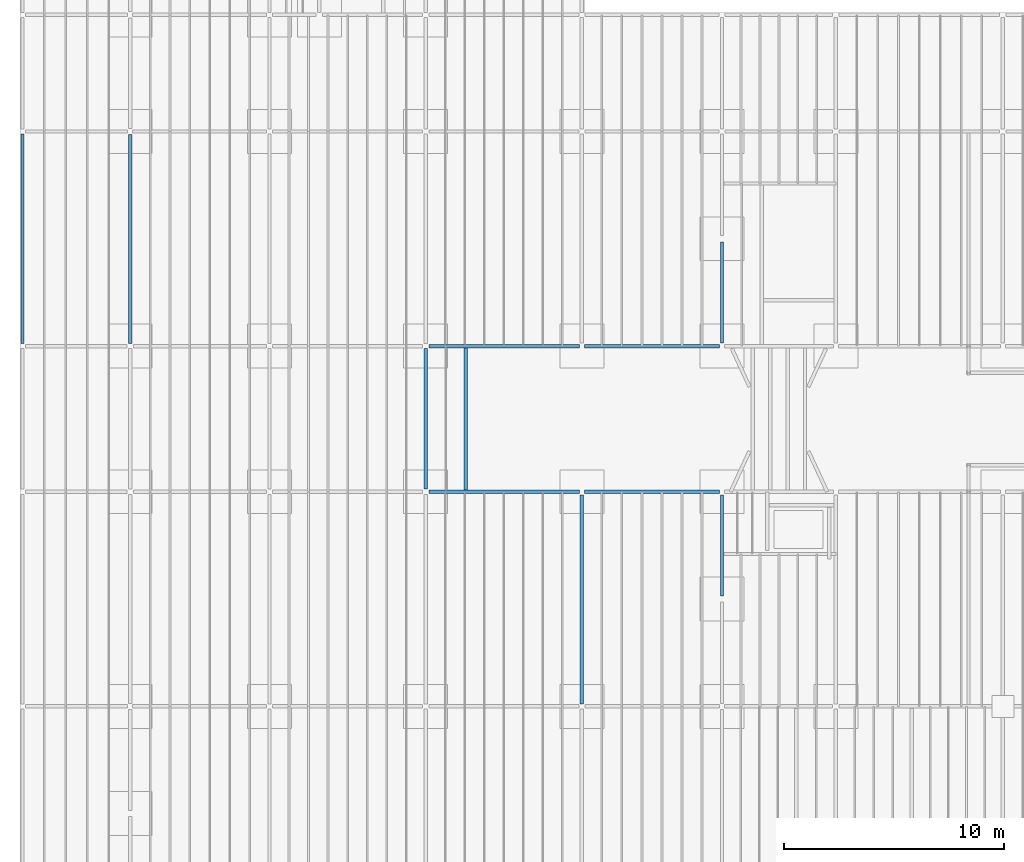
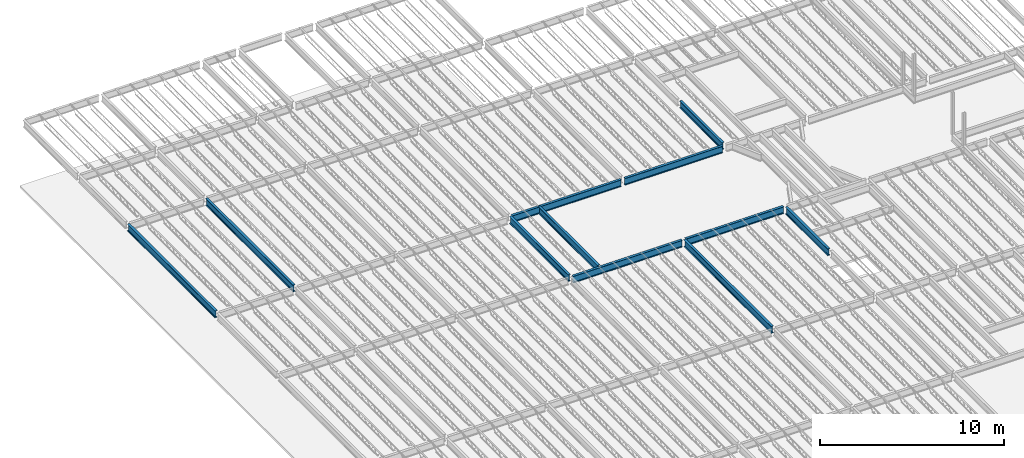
# One storey, part 8 of 75: 11 beams.
"""IFC2X3 building model written with IfcOpenShell, lengths in metres."""

from ifc_helpers import new_model, entity, si_unit, converted_unit, frame, frame_2d, origin, place, context, project, spatial, polyline, circle_curve, parameter, trimmed, segment, composite_curve, outline, extrude, material, element, save


model = new_model("IFC2X3")

# Units and contexts
model_context = context("Model", 3, precision=1e-09, world=origin())
plan_context = context("Plan", 3, precision=1e-09, world=origin())
ifc_project = project(units=[si_unit("LENGTHUNIT", "METRE"), si_unit("AREAUNIT", "SQUARE_METRE"), si_unit("VOLUMEUNIT", "CUBIC_METRE"), converted_unit("PLANEANGLEUNIT", "DEGREE", entity("IfcRatioMeasure", 0.01745329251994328), si_unit("PLANEANGLEUNIT", "RADIAN"), dimensions=[0, 0, 0, 0, 0, 0, 0]), si_unit("TIMEUNIT", "SECOND")], contexts=[model_context, plan_context])

# Site, building, storey
site_placement = place(None, origin())
site = spatial("IfcSite", under=ifc_project, at=site_placement, Name="Default", CompositionType="ELEMENT")
building_placement = place(site_placement, origin())
building = spatial("IfcBuilding", under=site, at=building_placement, CompositionType="ELEMENT")
storey_placement = place(building_placement, origin())
storey = spatial("IfcBuildingStorey", under=building, at=storey_placement, Name="First Floor", CompositionType="ELEMENT", Elevation=-3.531500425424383e-13)

# Beams
ifc_material = material(Name="Metal - Steel - 345 MPa")
beam_1_placement = place(storey_placement, frame((-26.44000000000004, 28.38140165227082, 4.46800000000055), z_axis=(0.0, 0.0, 1.0), x_axis=(-1.0, 0.0, 0.0)))
element("IfcBeam", 1, at=beam_1_placement, inside=storey, material=ifc_material, Name="M_W-Wide Flange:W460X60:W460X60", ObjectType="M_W-Wide Flange:W460X60", context=model_context, shape_type="SweptSolid", body=[
    extrude(outline(composite_curve([segment(polyline([(0.2141999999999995, -0.0764999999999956), (0.2275000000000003, -0.0764999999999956)]), True, "CONTINUOUS"), segment(polyline([(0.2275000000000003, -0.0764999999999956), (0.2275000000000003, 0.07650000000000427)]), True, "CONTINUOUS"), segment(polyline([(0.2275000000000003, 0.07650000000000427), (0.2141999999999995, 0.07650000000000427)]), True, "CONTINUOUS"), segment(polyline([(0.2141999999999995, 0.07650000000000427), (0.2141999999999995, 0.02170000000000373)]), True, "CONTINUOUS"), segment(trimmed(circle_curve(frame_2d((0.1964999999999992, 0.02170000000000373), x_axis=(1.0, 0.0)), 0.0177), [parameter(269.9999999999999)], [parameter(359.9999999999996)], True, "PARAMETER"), False, "CONTINUOUS"), segment(polyline([(0.1964999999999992, 0.004000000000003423), (-0.1965000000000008, 0.004000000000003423)]), True, "CONTINUOUS"), segment(trimmed(circle_curve(frame_2d((-0.1965000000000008, 0.02170000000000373), x_axis=(0.0, -1.0)), 0.0177), [parameter(269.9999999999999)], [parameter(359.9999999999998)], True, "PARAMETER"), False, "CONTINUOUS"), segment(polyline([(-0.2142000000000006, 0.02170000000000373), (-0.2142000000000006, 0.07650000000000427)]), True, "CONTINUOUS"), segment(polyline([(-0.2142000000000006, 0.07650000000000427), (-0.2274999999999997, 0.07650000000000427)]), True, "CONTINUOUS"), segment(polyline([(-0.2274999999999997, 0.07650000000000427), (-0.2274999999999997, -0.0764999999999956)]), True, "CONTINUOUS"), segment(polyline([(-0.2274999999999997, -0.0764999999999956), (-0.2142000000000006, -0.0764999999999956)]), True, "CONTINUOUS"), segment(polyline([(-0.2142000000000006, -0.0764999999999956), (-0.2142000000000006, -0.02169999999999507)]), True, "CONTINUOUS"), segment(trimmed(circle_curve(frame_2d((-0.1965000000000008, -0.02169999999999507), x_axis=(-1.0, 0.0)), 0.0177), [parameter(269.9999999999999)], [parameter(359.9999999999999)], True, "PARAMETER"), False, "CONTINUOUS"), segment(polyline([(-0.1965000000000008, -0.003999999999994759), (0.1964999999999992, -0.003999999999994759)]), True, "CONTINUOUS"), segment(trimmed(circle_curve(frame_2d((0.1964999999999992, -0.02169999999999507), x_axis=(0.0, 1.0)), 0.0177), [parameter(269.9999999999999)], [parameter(5.088887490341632e-14)], True, "PARAMETER"), False, "CONTINUOUS"), segment(polyline([(0.2141999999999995, -0.02169999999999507), (0.2141999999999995, -0.0764999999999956)]), True, "CONTINUOUS")], self_intersect=False)), frame((0.0, 9.656701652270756, -0.2275000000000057), z_axis=(0.0, -1.0, 0.0), x_axis=(0.0, 0.0, -1.0)), (0.0, 0.0, 1.0), 9.514099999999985),
])
beam_2_placement = place(storey_placement, frame((-20.05785378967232, 35.00999999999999, 4.404500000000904), z_axis=(0.0, 0.0, 1.0), x_axis=(0.0, 1.0, 0.0)))
element("IfcBeam", 2, at=beam_2_placement, inside=storey, material=ifc_material, Name="M_W-Wide Flange:W460X60:W460X60", ObjectType="M_W-Wide Flange:W460X60", context=model_context, shape_type="SweptSolid", body=[
    extrude(outline(composite_curve([segment(polyline([(0.2141999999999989, -0.07649999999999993), (0.2274999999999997, -0.07649999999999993)]), True, "CONTINUOUS"), segment(polyline([(0.2274999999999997, -0.07649999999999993), (0.2274999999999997, 0.07649999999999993)]), True, "CONTINUOUS"), segment(polyline([(0.2274999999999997, 0.07649999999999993), (0.2141999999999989, 0.07649999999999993)]), True, "CONTINUOUS"), segment(polyline([(0.2141999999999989, 0.07649999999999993), (0.2141999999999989, 0.0216999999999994)]), True, "CONTINUOUS"), segment(trimmed(circle_curve(frame_2d((0.1964999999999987, 0.0216999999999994), x_axis=(1.0, 0.0)), 0.0177), [parameter(269.9999999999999)], [parameter(359.9999999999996)], True, "PARAMETER"), False, "CONTINUOUS"), segment(polyline([(0.1964999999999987, 0.003999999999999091), (-0.1965000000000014, 0.003999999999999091)]), True, "CONTINUOUS"), segment(trimmed(circle_curve(frame_2d((-0.1965000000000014, 0.0216999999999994), x_axis=(0.0, -1.0)), 0.0177), [parameter(269.9999999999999)], [parameter(359.9999999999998)], True, "PARAMETER"), False, "CONTINUOUS"), segment(polyline([(-0.2142000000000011, 0.0216999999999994), (-0.2142000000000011, 0.07649999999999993)]), True, "CONTINUOUS"), segment(polyline([(-0.2142000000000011, 0.07649999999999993), (-0.2275000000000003, 0.07649999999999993)]), True, "CONTINUOUS"), segment(polyline([(-0.2275000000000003, 0.07649999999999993), (-0.2275000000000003, -0.07649999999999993)]), True, "CONTINUOUS"), segment(polyline([(-0.2275000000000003, -0.07649999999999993), (-0.2142000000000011, -0.07649999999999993)]), True, "CONTINUOUS"), segment(polyline([(-0.2142000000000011, -0.07649999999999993), (-0.2142000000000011, -0.0216999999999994)]), True, "CONTINUOUS"), segment(trimmed(circle_curve(frame_2d((-0.1965000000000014, -0.0216999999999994), x_axis=(-1.0, 0.0)), 0.0177), [parameter(269.9999999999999)], [parameter(359.9999999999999)], True, "PARAMETER"), False, "CONTINUOUS"), segment(polyline([(-0.1965000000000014, -0.003999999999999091), (0.1964999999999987, -0.003999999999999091)]), True, "CONTINUOUS"), segment(trimmed(circle_curve(frame_2d((0.1964999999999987, -0.0216999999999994), x_axis=(0.0, 1.0)), 0.0177), [parameter(269.9999999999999)], [parameter(5.088887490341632e-14)], True, "PARAMETER"), False, "CONTINUOUS"), segment(polyline([(0.2141999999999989, -0.0216999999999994), (0.2141999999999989, -0.07649999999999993)]), True, "CONTINUOUS")], self_intersect=False)), frame((0.0, 6.267446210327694, -0.2275000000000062), z_axis=(0.0, -1.0, 0.0), x_axis=(0.0, 0.0, -1.0)), (0.0, 0.0, 1.0), 6.150600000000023),
])
beam_3_placement = place(storey_placement, frame((-33.55000000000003, 35.01206530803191, 4.468000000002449), z_axis=(0.0, 0.0, 1.0), x_axis=(-1.0, 0.0, 0.0)))
element("IfcBeam", 3, at=beam_3_placement, inside=storey, material=ifc_material, Name="M_W-Wide Flange:W460X60:W460X60", ObjectType="M_W-Wide Flange:W460X60", context=model_context, shape_type="SweptSolid", body=[
    extrude(outline(composite_curve([segment(polyline([(0.2142, -0.07650000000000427), (0.2275000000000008, -0.07650000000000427)]), True, "CONTINUOUS"), segment(polyline([(0.2275000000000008, -0.07650000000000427), (0.2275000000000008, 0.0764999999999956)]), True, "CONTINUOUS"), segment(polyline([(0.2275000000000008, 0.0764999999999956), (0.2142, 0.0764999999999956)]), True, "CONTINUOUS"), segment(polyline([(0.2142, 0.0764999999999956), (0.2142, 0.02169999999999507)]), True, "CONTINUOUS"), segment(trimmed(circle_curve(frame_2d((0.1964999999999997, 0.02169999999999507), x_axis=(1.0, 0.0)), 0.0177), [parameter(269.9999999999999)], [parameter(359.9999999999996)], True, "PARAMETER"), False, "CONTINUOUS"), segment(polyline([(0.1964999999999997, 0.00399999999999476), (-0.1965000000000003, 0.00399999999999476)]), True, "CONTINUOUS"), segment(trimmed(circle_curve(frame_2d((-0.1965000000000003, 0.02169999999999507), x_axis=(0.0, -1.0)), 0.0177), [parameter(269.9999999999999)], [parameter(359.9999999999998)], True, "PARAMETER"), False, "CONTINUOUS"), segment(polyline([(-0.2142000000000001, 0.02169999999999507), (-0.2142000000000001, 0.0764999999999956)]), True, "CONTINUOUS"), segment(polyline([(-0.2142000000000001, 0.0764999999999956), (-0.2274999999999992, 0.0764999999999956)]), True, "CONTINUOUS"), segment(polyline([(-0.2274999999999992, 0.0764999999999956), (-0.2274999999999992, -0.07650000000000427)]), True, "CONTINUOUS"), segment(polyline([(-0.2274999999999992, -0.07650000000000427), (-0.2142000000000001, -0.07650000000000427)]), True, "CONTINUOUS"), segment(polyline([(-0.2142000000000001, -0.07650000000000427), (-0.2142000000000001, -0.02170000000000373)]), True, "CONTINUOUS"), segment(trimmed(circle_curve(frame_2d((-0.1965000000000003, -0.02170000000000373), x_axis=(-1.0, 0.0)), 0.0177), [parameter(269.9999999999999)], [parameter(359.9999999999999)], True, "PARAMETER"), False, "CONTINUOUS"), segment(polyline([(-0.1965000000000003, -0.004000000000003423), (0.1964999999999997, -0.004000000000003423)]), True, "CONTINUOUS"), segment(trimmed(circle_curve(frame_2d((0.1964999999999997, -0.02170000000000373), x_axis=(0.0, 1.0)), 0.0177), [parameter(269.9999999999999)], [parameter(5.088887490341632e-14)], True, "PARAMETER"), False, "CONTINUOUS"), segment(polyline([(0.2142, -0.02170000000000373), (0.2142, -0.07650000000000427)]), True, "CONTINUOUS")], self_intersect=False)), frame((0.0, 6.517365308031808, -0.2275000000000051), z_axis=(0.0, -1.0, 0.0), x_axis=(0.0, 0.0, -1.0)), (0.0, 0.0, 1.0), 6.400599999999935),
])
beam_4_placement = place(storey_placement, frame((-31.72122399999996, 28.53039529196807, 4.468000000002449)))
element("IfcBeam", 4, at=beam_4_placement, inside=storey, material=ifc_material, Name="M_W-Wide Flange:W460X60:W460X60", ObjectType="M_W-Wide Flange:W460X60", context=model_context, shape_type="SweptSolid", body=[
    extrude(outline(composite_curve([segment(polyline([(-0.07649999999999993, -0.2142), (-0.07649999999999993, -0.2275000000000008)]), True, "CONTINUOUS"), segment(polyline([(-0.07649999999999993, -0.2275000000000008), (0.07649999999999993, -0.2275000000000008)]), True, "CONTINUOUS"), segment(polyline([(0.07649999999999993, -0.2275000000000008), (0.07649999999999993, -0.2142)]), True, "CONTINUOUS"), segment(polyline([(0.07649999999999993, -0.2142), (0.0216999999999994, -0.2142)]), True, "CONTINUOUS"), segment(trimmed(circle_curve(frame_2d((0.0216999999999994, -0.1964999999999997), x_axis=(1.0, 0.0)), 0.0177), [parameter(180.0)], [parameter(269.9999999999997)], True, "PARAMETER"), False, "CONTINUOUS"), segment(polyline([(0.003999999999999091, -0.1964999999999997), (0.003999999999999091, 0.1965000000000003)]), True, "CONTINUOUS"), segment(trimmed(circle_curve(frame_2d((0.0216999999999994, 0.1965000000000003), x_axis=(1.0, 0.0)), 0.0177), [parameter(90.00000000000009)], [parameter(179.9999999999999)], True, "PARAMETER"), False, "CONTINUOUS"), segment(polyline([(0.0216999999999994, 0.2142000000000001), (0.07649999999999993, 0.2142000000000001)]), True, "CONTINUOUS"), segment(polyline([(0.07649999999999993, 0.2142000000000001), (0.07649999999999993, 0.2274999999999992)]), True, "CONTINUOUS"), segment(polyline([(0.07649999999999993, 0.2274999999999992), (-0.07649999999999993, 0.2274999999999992)]), True, "CONTINUOUS"), segment(polyline([(-0.07649999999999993, 0.2274999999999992), (-0.07649999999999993, 0.2142000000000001)]), True, "CONTINUOUS"), segment(polyline([(-0.07649999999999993, 0.2142000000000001), (-0.0216999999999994, 0.2142000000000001)]), True, "CONTINUOUS"), segment(trimmed(circle_curve(frame_2d((-0.0216999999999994, 0.1965000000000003), x_axis=(1.0, 0.0)), 0.0177), [parameter(359.9999999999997)], [parameter(89.99999999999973)], True, "PARAMETER"), False, "CONTINUOUS"), segment(polyline([(-0.003999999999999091, 0.1965000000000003), (-0.003999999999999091, -0.1964999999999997)]), True, "CONTINUOUS"), segment(trimmed(circle_curve(frame_2d((-0.0216999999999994, -0.1964999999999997), x_axis=(1.0, 0.0)), 0.0177), [parameter(269.9999999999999)], [parameter(0.0)], True, "PARAMETER"), False, "CONTINUOUS"), segment(polyline([(-0.0216999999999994, -0.2142), (-0.07649999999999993, -0.2142)]), True, "CONTINUOUS")], self_intersect=False)), frame((0.0, -0.06119529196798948, -0.2275000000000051), z_axis=(0.0, -1.0, 0.0), x_axis=(1.0, 0.0, 0.0)), (0.0, 0.0, -1.0), 6.451599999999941),
])
beam_5_placement = place(storey_placement, frame((-26.43807408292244, 28.38000000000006, 4.404500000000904), z_axis=(0.0, 0.0, 1.0), x_axis=(0.0, 1.0, 0.0)))
element("IfcBeam", 5, at=beam_5_placement, inside=storey, material=ifc_material, Name="M_W-Wide Flange:W460X60:W460X60", ObjectType="M_W-Wide Flange:W460X60", context=model_context, shape_type="SweptSolid", body=[
    extrude(outline(composite_curve([segment(polyline([(0.2141999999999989, -0.07649999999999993), (0.2274999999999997, -0.07649999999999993)]), True, "CONTINUOUS"), segment(polyline([(0.2274999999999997, -0.07649999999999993), (0.2274999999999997, 0.07649999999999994)]), True, "CONTINUOUS"), segment(polyline([(0.2274999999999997, 0.07649999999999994), (0.2141999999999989, 0.07649999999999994)]), True, "CONTINUOUS"), segment(polyline([(0.2141999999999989, 0.07649999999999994), (0.2141999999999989, 0.0216999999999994)]), True, "CONTINUOUS"), segment(trimmed(circle_curve(frame_2d((0.1964999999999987, 0.0216999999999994), x_axis=(1.0, 0.0)), 0.0177), [parameter(269.9999999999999)], [parameter(359.9999999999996)], True, "PARAMETER"), False, "CONTINUOUS"), segment(polyline([(0.1964999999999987, 0.00399999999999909), (-0.1965000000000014, 0.00399999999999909)]), True, "CONTINUOUS"), segment(trimmed(circle_curve(frame_2d((-0.1965000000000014, 0.0216999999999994), x_axis=(0.0, -1.0)), 0.0177), [parameter(269.9999999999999)], [parameter(359.9999999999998)], True, "PARAMETER"), False, "CONTINUOUS"), segment(polyline([(-0.2142000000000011, 0.0216999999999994), (-0.2142000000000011, 0.07649999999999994)]), True, "CONTINUOUS"), segment(polyline([(-0.2142000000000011, 0.07649999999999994), (-0.2275000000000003, 0.07649999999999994)]), True, "CONTINUOUS"), segment(polyline([(-0.2275000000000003, 0.07649999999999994), (-0.2275000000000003, -0.07649999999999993)]), True, "CONTINUOUS"), segment(polyline([(-0.2275000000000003, -0.07649999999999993), (-0.2142000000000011, -0.07649999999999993)]), True, "CONTINUOUS"), segment(polyline([(-0.2142000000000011, -0.07649999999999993), (-0.2142000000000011, -0.0216999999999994)]), True, "CONTINUOUS"), segment(trimmed(circle_curve(frame_2d((-0.1965000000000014, -0.0216999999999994), x_axis=(-1.0, 0.0)), 0.0177), [parameter(269.9999999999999)], [parameter(359.9999999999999)], True, "PARAMETER"), False, "CONTINUOUS"), segment(polyline([(-0.1965000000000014, -0.003999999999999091), (0.1964999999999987, -0.003999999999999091)]), True, "CONTINUOUS"), segment(trimmed(circle_curve(frame_2d((0.1964999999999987, -0.0216999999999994), x_axis=(0.0, 1.0)), 0.0177), [parameter(269.9999999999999)], [parameter(5.088887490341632e-14)], True, "PARAMETER"), False, "CONTINUOUS"), segment(polyline([(0.2141999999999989, -0.0216999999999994), (0.2141999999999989, -0.07649999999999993)]), True, "CONTINUOUS")], self_intersect=False)), frame((0.0, 6.970725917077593, -0.2275000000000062), z_axis=(0.0, -1.0, 0.0), x_axis=(0.0, 0.0, -1.0)), (0.0, 0.0, 1.0), 6.854099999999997),
])
beam_6_placement = place(storey_placement, frame((-26.43807408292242, 35.01000000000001, 4.404500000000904), z_axis=(0.0, 0.0, 1.0), x_axis=(0.0, 1.0, 0.0)))
element("IfcBeam", 6, at=beam_6_placement, inside=storey, material=ifc_material, Name="M_W-Wide Flange:W460X60:W460X60", ObjectType="M_W-Wide Flange:W460X60", context=model_context, shape_type="SweptSolid", body=[
    extrude(outline(composite_curve([segment(polyline([(0.2141999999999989, -0.07650000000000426), (0.2274999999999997, -0.07650000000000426)]), True, "CONTINUOUS"), segment(polyline([(0.2274999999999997, -0.07650000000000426), (0.2274999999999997, 0.07649999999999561)]), True, "CONTINUOUS"), segment(polyline([(0.2274999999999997, 0.07649999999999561), (0.2141999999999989, 0.07649999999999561)]), True, "CONTINUOUS"), segment(polyline([(0.2141999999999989, 0.07649999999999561), (0.2141999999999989, 0.02169999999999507)]), True, "CONTINUOUS"), segment(trimmed(circle_curve(frame_2d((0.1964999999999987, 0.02169999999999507), x_axis=(1.0, 0.0)), 0.0177), [parameter(269.9999999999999)], [parameter(359.9999999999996)], True, "PARAMETER"), False, "CONTINUOUS"), segment(polyline([(0.1964999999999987, 0.003999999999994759), (-0.1965000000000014, 0.003999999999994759)]), True, "CONTINUOUS"), segment(trimmed(circle_curve(frame_2d((-0.1965000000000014, 0.02169999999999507), x_axis=(0.0, -1.0)), 0.0177), [parameter(269.9999999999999)], [parameter(359.9999999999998)], True, "PARAMETER"), False, "CONTINUOUS"), segment(polyline([(-0.2142000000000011, 0.02169999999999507), (-0.2142000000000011, 0.07649999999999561)]), True, "CONTINUOUS"), segment(polyline([(-0.2142000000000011, 0.07649999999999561), (-0.2275000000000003, 0.07649999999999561)]), True, "CONTINUOUS"), segment(polyline([(-0.2275000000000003, 0.07649999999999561), (-0.2275000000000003, -0.07650000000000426)]), True, "CONTINUOUS"), segment(polyline([(-0.2275000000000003, -0.07650000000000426), (-0.2142000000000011, -0.07650000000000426)]), True, "CONTINUOUS"), segment(polyline([(-0.2142000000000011, -0.07650000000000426), (-0.2142000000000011, -0.02170000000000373)]), True, "CONTINUOUS"), segment(trimmed(circle_curve(frame_2d((-0.1965000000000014, -0.02170000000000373), x_axis=(-1.0, 0.0)), 0.0177), [parameter(269.9999999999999)], [parameter(359.9999999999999)], True, "PARAMETER"), False, "CONTINUOUS"), segment(polyline([(-0.1965000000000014, -0.004000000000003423), (0.1964999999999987, -0.004000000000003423)]), True, "CONTINUOUS"), segment(trimmed(circle_curve(frame_2d((0.1964999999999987, -0.02170000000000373), x_axis=(0.0, 1.0)), 0.0177), [parameter(269.9999999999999)], [parameter(5.088887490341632e-14)], True, "PARAMETER"), False, "CONTINUOUS"), segment(polyline([(0.2141999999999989, -0.02170000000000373), (0.2141999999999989, -0.07650000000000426)]), True, "CONTINUOUS")], self_intersect=False)), frame((0.0, 6.970725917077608, -0.2275000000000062), z_axis=(0.0, -1.0, 0.0), x_axis=(0.0, 0.0, -1.0)), (0.0, 0.0, 1.0), 6.854099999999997),
])
beam_7_placement = place(storey_placement, frame((-51.89999999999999, 44.78140165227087, 4.46800000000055), z_axis=(0.0, 0.0, 1.0), x_axis=(-1.0, 0.0, 0.0)))
element("IfcBeam", 7, at=beam_7_placement, inside=storey, material=ifc_material, Name="M_W-Wide Flange:W460X60:W460X60", ObjectType="M_W-Wide Flange:W460X60", context=model_context, shape_type="SweptSolid", body=[
    extrude(outline(composite_curve([segment(polyline([(0.2141999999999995, -0.07649999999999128), (0.2275000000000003, -0.07649999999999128)]), True, "CONTINUOUS"), segment(polyline([(0.2275000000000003, -0.07649999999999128), (0.2275000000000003, 0.07650000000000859)]), True, "CONTINUOUS"), segment(polyline([(0.2275000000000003, 0.07650000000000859), (0.2141999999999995, 0.07650000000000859)]), True, "CONTINUOUS"), segment(polyline([(0.2141999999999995, 0.07650000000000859), (0.2141999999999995, 0.02170000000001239)]), True, "CONTINUOUS"), segment(trimmed(circle_curve(frame_2d((0.1964999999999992, 0.02170000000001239), x_axis=(1.0, 0.0)), 0.0177), [parameter(269.9999999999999)], [parameter(359.9999999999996)], True, "PARAMETER"), False, "CONTINUOUS"), segment(polyline([(0.1964999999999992, 0.004000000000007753), (-0.1965000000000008, 0.004000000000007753)]), True, "CONTINUOUS"), segment(trimmed(circle_curve(frame_2d((-0.1965000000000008, 0.02170000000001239), x_axis=(0.0, -1.0)), 0.0177), [parameter(269.9999999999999)], [parameter(359.9999999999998)], True, "PARAMETER"), False, "CONTINUOUS"), segment(polyline([(-0.2142000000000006, 0.02170000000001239), (-0.2142000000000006, 0.07650000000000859)]), True, "CONTINUOUS"), segment(polyline([(-0.2142000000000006, 0.07650000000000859), (-0.2274999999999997, 0.07650000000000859)]), True, "CONTINUOUS"), segment(polyline([(-0.2274999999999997, 0.07650000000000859), (-0.2274999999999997, -0.07649999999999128)]), True, "CONTINUOUS"), segment(polyline([(-0.2274999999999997, -0.07649999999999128), (-0.2142000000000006, -0.07649999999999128)]), True, "CONTINUOUS"), segment(polyline([(-0.2142000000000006, -0.07649999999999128), (-0.2142000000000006, -0.02169999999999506)]), True, "CONTINUOUS"), segment(trimmed(circle_curve(frame_2d((-0.1965000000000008, -0.0216999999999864), x_axis=(-1.0, 0.0)), 0.0177), [parameter(269.9999999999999)], [parameter(359.9999999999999)], True, "PARAMETER"), False, "CONTINUOUS"), segment(polyline([(-0.1965000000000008, -0.003999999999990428), (0.1964999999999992, -0.003999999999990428)]), True, "CONTINUOUS"), segment(trimmed(circle_curve(frame_2d((0.1964999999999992, -0.0216999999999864), x_axis=(0.0, 1.0)), 0.0177), [parameter(269.9999999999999)], [parameter(5.088887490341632e-14)], True, "PARAMETER"), False, "CONTINUOUS"), segment(polyline([(0.2141999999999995, -0.02169999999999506), (0.2141999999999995, -0.07649999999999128)]), True, "CONTINUOUS")], self_intersect=False)), frame((0.0, 9.65670165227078, -0.2275000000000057), z_axis=(0.0, -1.0, 0.0), x_axis=(0.0, 0.0, -1.0)), (0.0, 0.0, 1.0), 9.540600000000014),
])
beam_8_placement = place(storey_placement, frame((-47.0, 35.0085983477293, 4.46800000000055)))
element("IfcBeam", 8, at=beam_8_placement, inside=storey, material=ifc_material, Name="M_W-Wide Flange:W460X60:W460X60", ObjectType="M_W-Wide Flange:W460X60", context=model_context, shape_type="SweptSolid", body=[
    extrude(outline(composite_curve([segment(polyline([(-0.07649999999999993, -0.2142), (-0.07649999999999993, -0.2275000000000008)]), True, "CONTINUOUS"), segment(polyline([(-0.07649999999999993, -0.2275000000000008), (0.07649999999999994, -0.2275000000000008)]), True, "CONTINUOUS"), segment(polyline([(0.07649999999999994, -0.2275000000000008), (0.07649999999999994, -0.2142)]), True, "CONTINUOUS"), segment(polyline([(0.07649999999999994, -0.2142), (0.02170000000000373, -0.2142)]), True, "CONTINUOUS"), segment(trimmed(circle_curve(frame_2d((0.02170000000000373, -0.1964999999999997), x_axis=(0.0, -1.0)), 0.0177), [parameter(269.9999999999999)], [parameter(359.9999999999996)], True, "PARAMETER"), False, "CONTINUOUS"), segment(polyline([(0.003999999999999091, -0.1964999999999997), (0.003999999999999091, 0.1965000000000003)]), True, "CONTINUOUS"), segment(trimmed(circle_curve(frame_2d((0.02170000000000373, 0.1965000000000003), x_axis=(-1.0, 0.0)), 0.0177), [parameter(269.9999999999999)], [parameter(359.9999999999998)], True, "PARAMETER"), False, "CONTINUOUS"), segment(polyline([(0.02170000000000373, 0.2142000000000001), (0.07649999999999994, 0.2142000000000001)]), True, "CONTINUOUS"), segment(polyline([(0.07649999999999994, 0.2142000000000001), (0.07649999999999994, 0.2274999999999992)]), True, "CONTINUOUS"), segment(polyline([(0.07649999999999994, 0.2274999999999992), (-0.07649999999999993, 0.2274999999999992)]), True, "CONTINUOUS"), segment(polyline([(-0.07649999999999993, 0.2274999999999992), (-0.07649999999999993, 0.2142000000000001)]), True, "CONTINUOUS"), segment(polyline([(-0.07649999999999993, 0.2142000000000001), (-0.02170000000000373, 0.2142000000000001)]), True, "CONTINUOUS"), segment(trimmed(circle_curve(frame_2d((-0.02169999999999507, 0.1965000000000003), x_axis=(0.0, 1.0)), 0.0177), [parameter(269.9999999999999)], [parameter(359.9999999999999)], True, "PARAMETER"), False, "CONTINUOUS"), segment(polyline([(-0.00399999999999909, 0.1965000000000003), (-0.00399999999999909, -0.1964999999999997)]), True, "CONTINUOUS"), segment(trimmed(circle_curve(frame_2d((-0.02169999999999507, -0.1964999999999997), x_axis=(1.0, 0.0)), 0.0177), [parameter(269.9999999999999)], [parameter(5.088887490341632e-14)], True, "PARAMETER"), False, "CONTINUOUS"), segment(polyline([(-0.02170000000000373, -0.2142), (-0.07649999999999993, -0.2142)]), True, "CONTINUOUS")], self_intersect=False)), frame((0.0, 0.1161016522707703, -0.2275000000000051), z_axis=(0.0, -1.0, 0.0), x_axis=(1.0, 0.0, 0.0)), (0.0, 0.0, -1.0), 9.514099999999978),
])
beam_9_placement = place(storey_placement, frame((-20.05999999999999, 39.89818168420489, 4.46800000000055), z_axis=(0.0, 0.0, 1.0), x_axis=(-1.0, 0.0, 0.0)))
element("IfcBeam", 9, at=beam_9_placement, inside=storey, material=ifc_material, Name="M_W-Wide Flange:W460X60:W460X60", ObjectType="M_W-Wide Flange:W460X60", context=model_context, shape_type="SweptSolid", body=[
    extrude(outline(composite_curve([segment(polyline([(0.2141999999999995, -0.07649999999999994), (0.2275000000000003, -0.07649999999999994)]), True, "CONTINUOUS"), segment(polyline([(0.2275000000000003, -0.07649999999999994), (0.2275000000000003, 0.07649999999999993)]), True, "CONTINUOUS"), segment(polyline([(0.2275000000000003, 0.07649999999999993), (0.2141999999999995, 0.07649999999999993)]), True, "CONTINUOUS"), segment(polyline([(0.2141999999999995, 0.07649999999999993), (0.2141999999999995, 0.0216999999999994)]), True, "CONTINUOUS"), segment(trimmed(circle_curve(frame_2d((0.1964999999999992, 0.0216999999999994), x_axis=(1.0, 0.0)), 0.0177), [parameter(269.9999999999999)], [parameter(359.9999999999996)], True, "PARAMETER"), False, "CONTINUOUS"), segment(polyline([(0.1964999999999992, 0.003999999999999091), (-0.1965000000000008, 0.003999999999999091)]), True, "CONTINUOUS"), segment(trimmed(circle_curve(frame_2d((-0.1965000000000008, 0.0216999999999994), x_axis=(0.0, -1.0)), 0.0177), [parameter(269.9999999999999)], [parameter(359.9999999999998)], True, "PARAMETER"), False, "CONTINUOUS"), segment(polyline([(-0.2142000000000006, 0.0216999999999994), (-0.2142000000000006, 0.07649999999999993)]), True, "CONTINUOUS"), segment(polyline([(-0.2142000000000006, 0.07649999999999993), (-0.2274999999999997, 0.07649999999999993)]), True, "CONTINUOUS"), segment(polyline([(-0.2274999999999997, 0.07649999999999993), (-0.2274999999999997, -0.07649999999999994)]), True, "CONTINUOUS"), segment(polyline([(-0.2274999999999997, -0.07649999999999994), (-0.2142000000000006, -0.07649999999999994)]), True, "CONTINUOUS"), segment(polyline([(-0.2142000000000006, -0.07649999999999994), (-0.2142000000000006, -0.0216999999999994)]), True, "CONTINUOUS"), segment(trimmed(circle_curve(frame_2d((-0.1965000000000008, -0.0216999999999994), x_axis=(-1.0, 0.0)), 0.0177), [parameter(269.9999999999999)], [parameter(359.9999999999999)], True, "PARAMETER"), False, "CONTINUOUS"), segment(polyline([(-0.1965000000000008, -0.00399999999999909), (0.1964999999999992, -0.00399999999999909)]), True, "CONTINUOUS"), segment(trimmed(circle_curve(frame_2d((0.1964999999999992, -0.0216999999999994), x_axis=(0.0, 1.0)), 0.0177), [parameter(269.9999999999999)], [parameter(5.088887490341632e-14)], True, "PARAMETER"), False, "CONTINUOUS"), segment(polyline([(0.2141999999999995, -0.0216999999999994), (0.2141999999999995, -0.07649999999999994)]), True, "CONTINUOUS")], self_intersect=False)), frame((0.0, 4.746981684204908, -0.2275000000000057), z_axis=(0.0, -1.0, 0.0), x_axis=(0.0, 0.0, -1.0)), (0.0, 0.0, 1.0), 4.602979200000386),
])
beam_10_placement = place(storey_placement, frame((-20.06000000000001, 28.38280218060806, 4.404500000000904), z_axis=(0.0, 0.0, 1.0), x_axis=(-1.0, 0.0, 0.0)))
element("IfcBeam", 10, at=beam_10_placement, inside=storey, material=ifc_material, Name="M_W-Wide Flange:W460X60:W460X60", ObjectType="M_W-Wide Flange:W460X60", context=model_context, shape_type="SweptSolid", body=[
    extrude(outline(composite_curve([segment(polyline([(0.2141999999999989, -0.07649999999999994), (0.2274999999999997, -0.07649999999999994)]), True, "CONTINUOUS"), segment(polyline([(0.2274999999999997, -0.07649999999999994), (0.2274999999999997, 0.07649999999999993)]), True, "CONTINUOUS"), segment(polyline([(0.2274999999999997, 0.07649999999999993), (0.2141999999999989, 0.07649999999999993)]), True, "CONTINUOUS"), segment(polyline([(0.2141999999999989, 0.07649999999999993), (0.2141999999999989, 0.0216999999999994)]), True, "CONTINUOUS"), segment(trimmed(circle_curve(frame_2d((0.1964999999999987, 0.0216999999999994), x_axis=(1.0, 0.0)), 0.0177), [parameter(269.9999999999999)], [parameter(359.9999999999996)], True, "PARAMETER"), False, "CONTINUOUS"), segment(polyline([(0.1964999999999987, 0.003999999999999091), (-0.1965000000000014, 0.003999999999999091)]), True, "CONTINUOUS"), segment(trimmed(circle_curve(frame_2d((-0.1965000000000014, 0.0216999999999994), x_axis=(0.0, -1.0)), 0.0177), [parameter(269.9999999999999)], [parameter(359.9999999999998)], True, "PARAMETER"), False, "CONTINUOUS"), segment(polyline([(-0.2142000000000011, 0.0216999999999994), (-0.2142000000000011, 0.07649999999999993)]), True, "CONTINUOUS"), segment(polyline([(-0.2142000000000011, 0.07649999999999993), (-0.2275000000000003, 0.07649999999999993)]), True, "CONTINUOUS"), segment(polyline([(-0.2275000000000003, 0.07649999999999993), (-0.2275000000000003, -0.07649999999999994)]), True, "CONTINUOUS"), segment(polyline([(-0.2275000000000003, -0.07649999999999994), (-0.2142000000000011, -0.07649999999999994)]), True, "CONTINUOUS"), segment(polyline([(-0.2142000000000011, -0.07649999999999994), (-0.2142000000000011, -0.0216999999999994)]), True, "CONTINUOUS"), segment(trimmed(circle_curve(frame_2d((-0.1965000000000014, -0.0216999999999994), x_axis=(-1.0, 0.0)), 0.0177), [parameter(269.9999999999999)], [parameter(359.9999999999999)], True, "PARAMETER"), False, "CONTINUOUS"), segment(polyline([(-0.1965000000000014, -0.00399999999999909), (0.1964999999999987, -0.00399999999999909)]), True, "CONTINUOUS"), segment(trimmed(circle_curve(frame_2d((0.1964999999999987, -0.0216999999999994), x_axis=(0.0, 1.0)), 0.0177), [parameter(269.9999999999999)], [parameter(5.088887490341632e-14)], True, "PARAMETER"), False, "CONTINUOUS"), segment(polyline([(0.2141999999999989, -0.0216999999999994), (0.2141999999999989, -0.07649999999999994)]), True, "CONTINUOUS")], self_intersect=False)), frame((0.0, 4.747510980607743, -0.2275000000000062), z_axis=(0.0, -1.0, 0.0), x_axis=(0.0, 0.0, -1.0)), (0.0, 0.0, 1.0), 4.60350879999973),
])
beam_11_placement = place(storey_placement, frame((-20.05785378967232, 28.38000000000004, 4.404500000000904), z_axis=(0.0, 0.0, 1.0), x_axis=(0.0, 1.0, 0.0)))
element("IfcBeam", 11, at=beam_11_placement, inside=storey, material=ifc_material, Name="M_W-Wide Flange:W460X60:W460X60", ObjectType="M_W-Wide Flange:W460X60", context=model_context, shape_type="SweptSolid", body=[
    extrude(outline(composite_curve([segment(polyline([(0.2141999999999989, -0.07650000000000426), (0.2274999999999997, -0.07650000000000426)]), True, "CONTINUOUS"), segment(polyline([(0.2274999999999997, -0.07650000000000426), (0.2274999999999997, 0.0764999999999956)]), True, "CONTINUOUS"), segment(polyline([(0.2274999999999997, 0.0764999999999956), (0.2141999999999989, 0.0764999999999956)]), True, "CONTINUOUS"), segment(polyline([(0.2141999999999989, 0.0764999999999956), (0.2141999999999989, 0.02169999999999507)]), True, "CONTINUOUS"), segment(trimmed(circle_curve(frame_2d((0.1964999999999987, 0.02169999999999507), x_axis=(1.0, 0.0)), 0.0177), [parameter(269.9999999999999)], [parameter(359.9999999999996)], True, "PARAMETER"), False, "CONTINUOUS"), segment(polyline([(0.1964999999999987, 0.00399999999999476), (-0.1965000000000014, 0.00399999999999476)]), True, "CONTINUOUS"), segment(trimmed(circle_curve(frame_2d((-0.1965000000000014, 0.02169999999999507), x_axis=(0.0, -1.0)), 0.0177), [parameter(269.9999999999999)], [parameter(359.9999999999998)], True, "PARAMETER"), False, "CONTINUOUS"), segment(polyline([(-0.2142000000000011, 0.02169999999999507), (-0.2142000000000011, 0.0764999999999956)]), True, "CONTINUOUS"), segment(polyline([(-0.2142000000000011, 0.0764999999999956), (-0.2275000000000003, 0.0764999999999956)]), True, "CONTINUOUS"), segment(polyline([(-0.2275000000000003, 0.0764999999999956), (-0.2275000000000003, -0.07650000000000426)]), True, "CONTINUOUS"), segment(polyline([(-0.2275000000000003, -0.07650000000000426), (-0.2142000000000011, -0.07650000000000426)]), True, "CONTINUOUS"), segment(polyline([(-0.2142000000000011, -0.07650000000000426), (-0.2142000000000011, -0.02170000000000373)]), True, "CONTINUOUS"), segment(trimmed(circle_curve(frame_2d((-0.1965000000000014, -0.02170000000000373), x_axis=(-1.0, 0.0)), 0.0177), [parameter(269.9999999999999)], [parameter(359.9999999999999)], True, "PARAMETER"), False, "CONTINUOUS"), segment(polyline([(-0.1965000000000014, -0.004000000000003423), (0.1964999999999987, -0.004000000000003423)]), True, "CONTINUOUS"), segment(trimmed(circle_curve(frame_2d((0.1964999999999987, -0.02170000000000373), x_axis=(0.0, 1.0)), 0.0177), [parameter(269.9999999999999)], [parameter(5.088887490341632e-14)], True, "PARAMETER"), False, "CONTINUOUS"), segment(polyline([(0.2141999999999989, -0.02170000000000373), (0.2141999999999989, -0.07650000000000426)]), True, "CONTINUOUS")], self_intersect=False)), frame((0.0, 6.267446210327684, -0.2275000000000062), z_axis=(0.0, -1.0, 0.0), x_axis=(0.0, 0.0, -1.0)), (0.0, 0.0, 1.0), 6.150600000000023),
])

save(model, "model.ifc")
